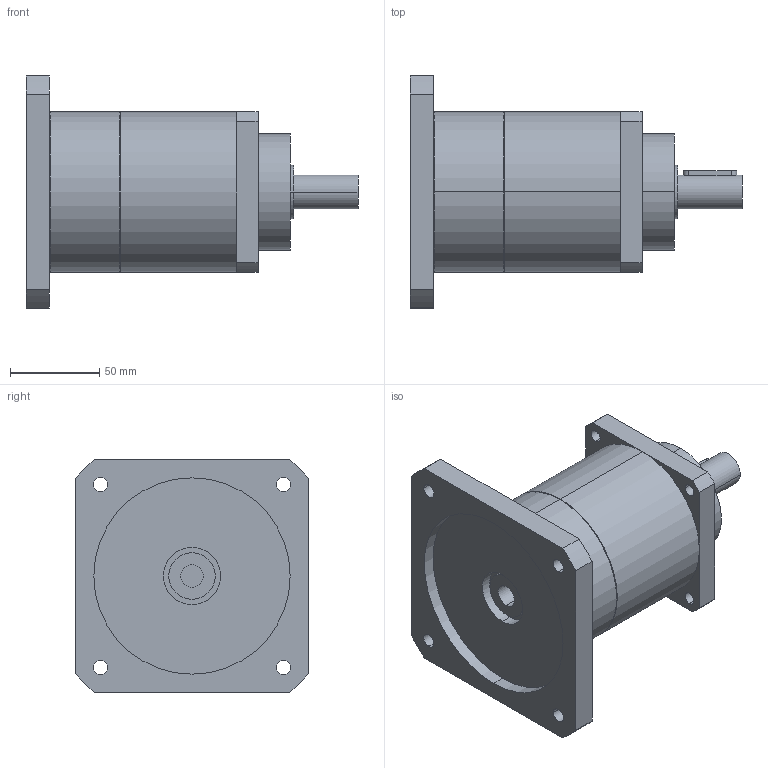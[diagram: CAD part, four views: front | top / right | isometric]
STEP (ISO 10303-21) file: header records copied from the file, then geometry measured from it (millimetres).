
FILE_DESCRIPTION(('CoCreate Modeling STEP Export'),'2;1');
FILE_NAME('GPT90_ig-9-12-16-20-25-28-35-40-50-70-100_19_B5T_12.7_P33.stp','2015-02-04T11:27:56',(''),(''),'CoCreate Modeling STEP processor for AP214 (Solid Model)','CoCreate Modeling 16.00C 25-Feb-2009 (C) Parametric Technology GmbH','');
FILE_SCHEMA(('AUTOMOTIVE_DESIGN { 1 0 10303 214 1 1 1 1 }'));
Length unit declared in the file: millimetre
Products named in the file (2): GPT90_ig-9-12-16-20-25-28-35-40-50-70-100_19_B5T_12.7_P33
Assembly tree (1 placements, depth 2):
  GPT90_ig-9-12-16-20-25-28-35-40-50-70-100_19_B5T_12.7_P33
    GPT90_ig-9-12-16-20-25-28-35-40-50-70-100_19_B5T_12.7_P33
Bounding box: 186 x 130 x 130 mm (x, y, z)
Volume: 974300.6 mm3; surface area: 90300.9 mm2
Topology: 1 solids, 1 shells, 77 faces, 206 edges, 141 vertices
Faces by surface type: cylinder 46, plane 27, cone 4
Entity records: 2596 total; most frequent: CARTESIAN_POINT 742, ORIENTED_EDGE 412, DIRECTION 324, EDGE_CURVE 206, VERTEX_POINT 141, AXIS2_PLACEMENT_3D 120, EDGE_LOOP 103, VECTOR 84
